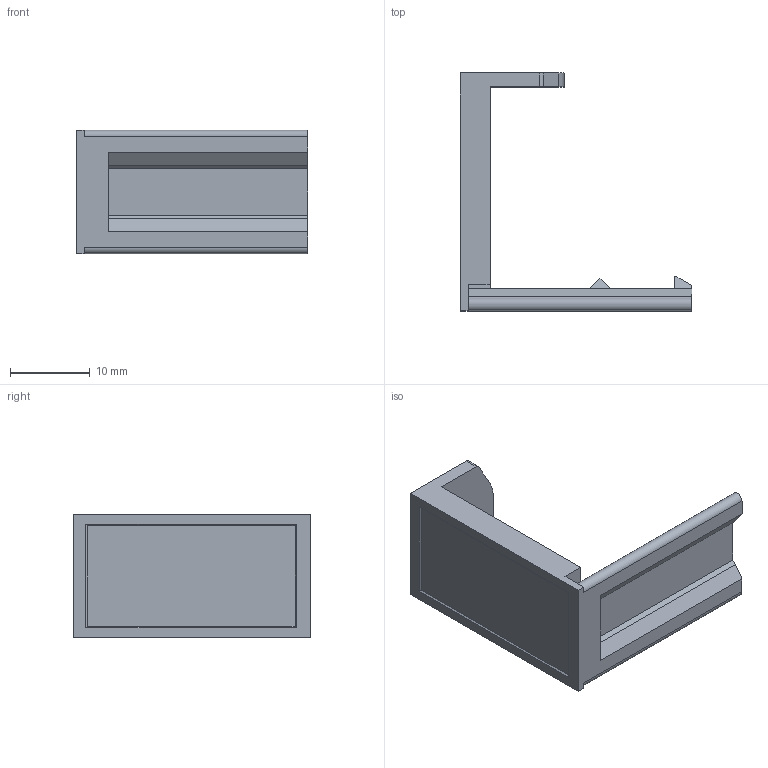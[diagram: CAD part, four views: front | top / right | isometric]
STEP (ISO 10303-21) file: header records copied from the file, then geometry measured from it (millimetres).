
FILE_DESCRIPTION (( 'STEP AP214' ), '1' );
FILE_NAME ('SENSOR16_TOP2.STEP', '2026-01-26T00:42:40', ( '' ), ( '' ), 'SwSTEP 2.0', 'SolidWorks 2021', '' );
FILE_SCHEMA (( 'AUTOMOTIVE_DESIGN' ));
Length unit declared in the file: millimetre
Products named in the file (1): SENSOR16_TOP2
Bounding box: 29 x 29.8 x 15.5 mm (x, y, z)
Volume: 2347.3 mm3; surface area: 2504 mm2
Topology: 1 solids, 1 shells, 55 faces, 146 edges, 96 vertices
Faces by surface type: plane 45, cylinder 8, cone 2
Entity records: 1724 total; most frequent: CARTESIAN_POINT 298, ORIENTED_EDGE 292, DIRECTION 280, EDGE_CURVE 146, VECTOR 124, LINE 124, VERTEX_POINT 96, AXIS2_PLACEMENT_3D 78
